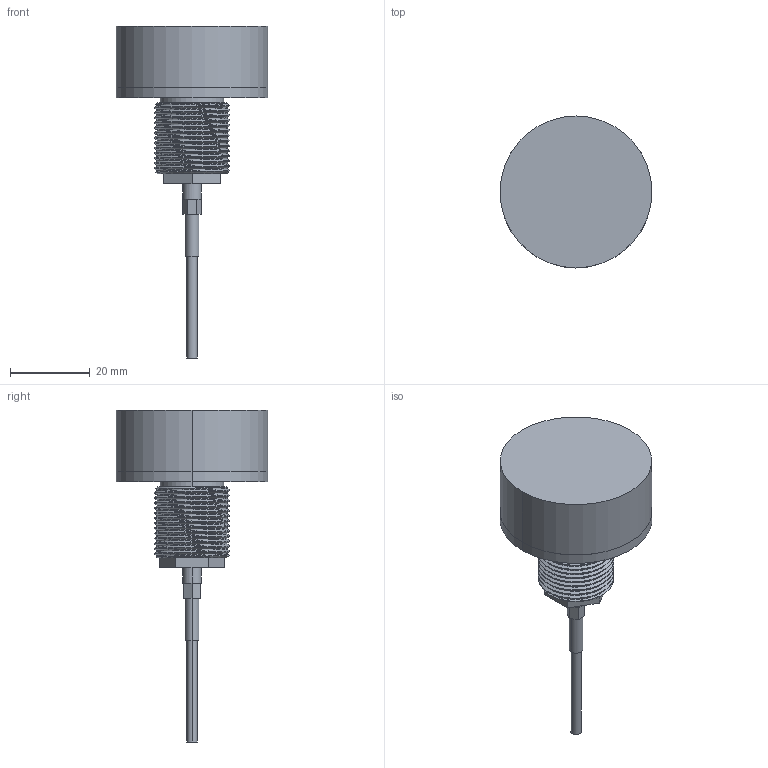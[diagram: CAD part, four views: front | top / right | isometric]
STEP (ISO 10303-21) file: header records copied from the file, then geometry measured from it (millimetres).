
FILE_DESCRIPTION (( 'STEP AP203' ), '1' );
FILE_NAME ('38U.STEP', '2010-03-05T19:00:55', ( 'tom edwards' ), ( 'Tom J. Edwards' ), 'SwSTEP 2.0', 'SolidWorks 2008', '' );
FILE_SCHEMA (( 'CONFIG_CONTROL_DESIGN' ));
Length unit declared in the file: inch
Products named in the file (1): 38U
Bounding box: 38.13 x 38.13 x 83.31 mm (x, y, z)
Volume: 26269.5 mm3; surface area: 6786.7 mm2
Topology: 1 solids, 1 shells, 75 faces, 183 edges, 117 vertices
Faces by surface type: cylinder 39, plane 27, cone 6, bspline 3
Entity records: 6977 total; most frequent: CARTESIAN_POINT 5305, ORIENTED_EDGE 366, DIRECTION 296, EDGE_CURVE 183, VERTEX_POINT 117, AXIS2_PLACEMENT_3D 108, EDGE_LOOP 82, LINE 80
